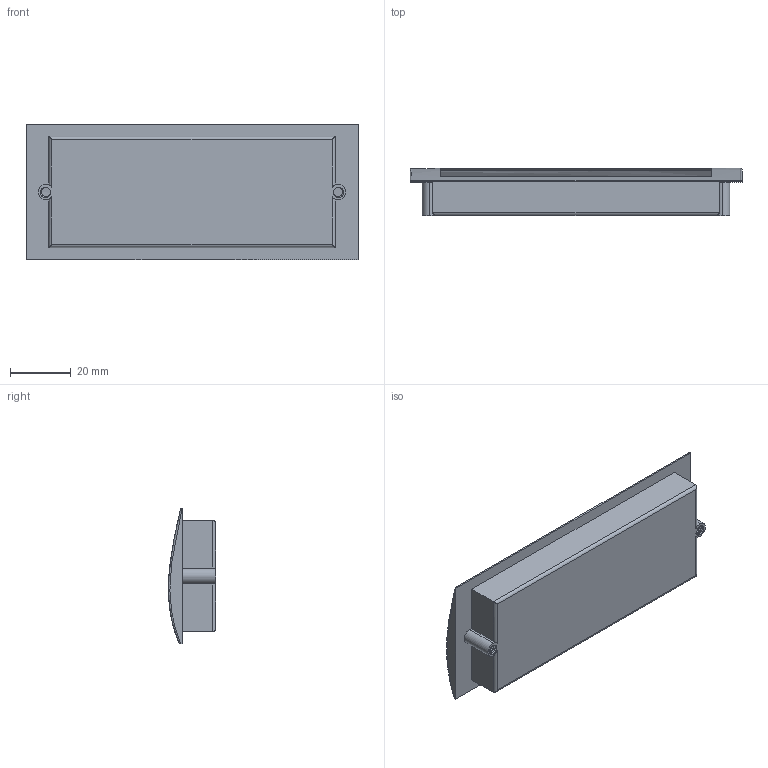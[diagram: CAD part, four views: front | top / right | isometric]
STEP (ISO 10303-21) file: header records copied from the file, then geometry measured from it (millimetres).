
FILE_DESCRIPTION (( 'STEP AP203' ), '1' );
FILE_NAME ('200-CE-HDI-AL.STEP', '2015-07-09T09:23:12', ( '' ), ( '' ), 'SwSTEP 2.0', 'SolidWorks 2013', '' );
FILE_SCHEMA (( 'CONFIG_CONTROL_DESIGN' ));
Length unit declared in the file: millimetre
Products named in the file (1): 200-CE-HDI-AL
Bounding box: 109 x 15.5 x 44.5 mm (x, y, z)
Surface area: 15987.6 mm2 (no closed solid volume)
Topology: 0 solids, 1 shells, 87 faces, 256 edges, 170 vertices
Faces by surface type: cylinder 63, plane 16, bspline 8
Entity records: 4886 total; most frequent: CARTESIAN_POINT 2891, ORIENTED_EDGE 473, DIRECTION 308, EDGE_CURVE 256, VERTEX_POINT 170, LINE 104, VECTOR 104, AXIS2_PLACEMENT_3D 102
